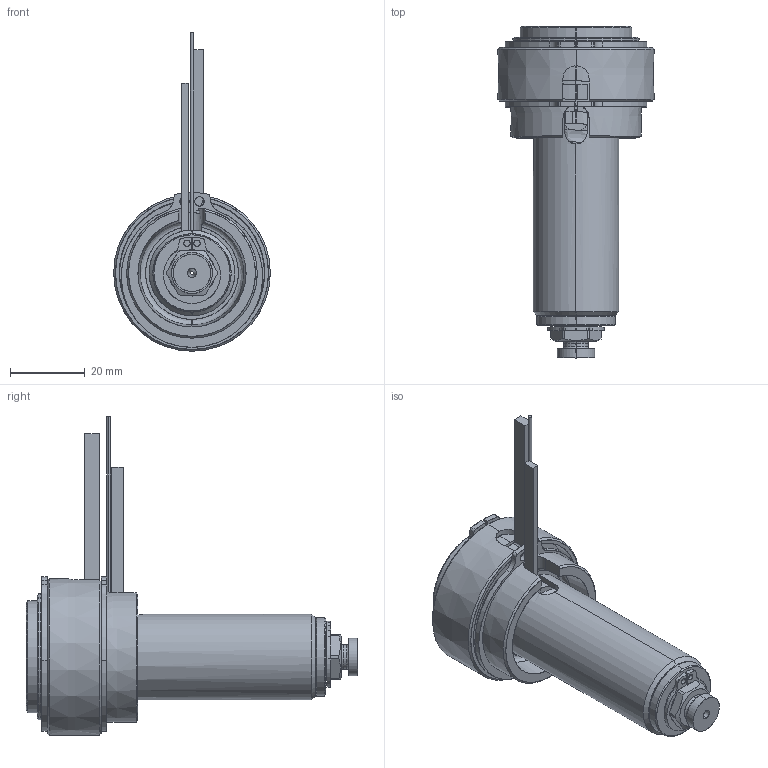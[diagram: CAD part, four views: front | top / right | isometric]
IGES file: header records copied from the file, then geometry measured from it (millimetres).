
Start section: SolidWorks IGES file using analytic representation for surfaces
Global section: file name: C:\Users\luca.EMPAD\Desktop\TEM\UGBE3501-M-A-5 [Ød-1.0 P-0 ØC-7.0].IGS; native system: SolidWorks 2012; preprocessor: SolidWorks 2012; author: luca; date: 120330.140307; units: millimetre
Bounding box: 42 x 89 x 85.4 mm (x, y, z)
Surface area: 26917.3 mm2 (no closed solid volume)
Topology: 0 solids, 0 shells, 189 faces, 3338 edges, 3338 vertices
Faces by surface type: revolution 121, bspline 68
